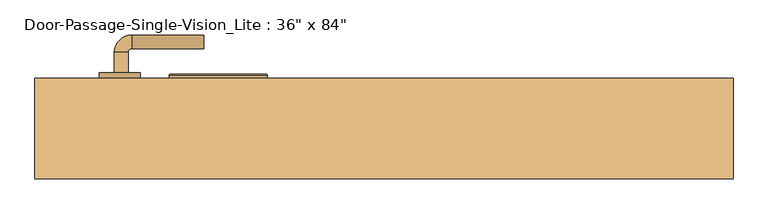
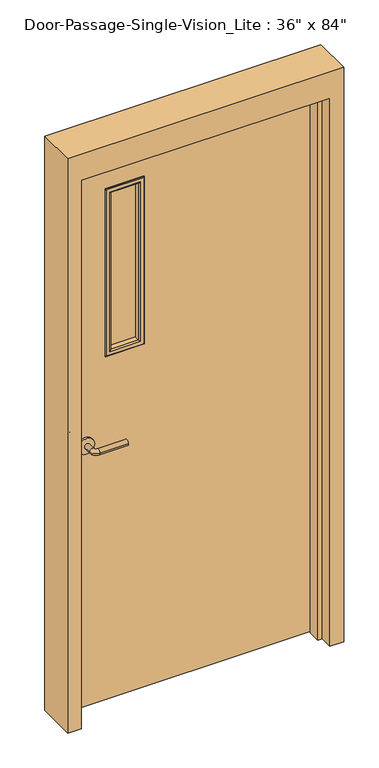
"""IFC4 building model written with IfcOpenShell, lengths in millimetres: door geometry."""

from ifc_helpers import new_model, si_unit, point, frame, frame_2d, origin, place, context, project, spatial, polyline, circle_curve, ellipse_curve, trimmed, segment, composite_curve, outline, extrude, faceted_brep, source, transform, mapped, element, save
from ifc_brep_helpers import plane_surface, cylinder_surface, revolved_surface, advanced_brep


def door_158479e4(model_context):
    return source(origin(), model_context, "Body", "SolidModel", [
        advanced_brep(
        [(-392.190625, -33.4, 1016.0), (-372.190625, -33.4, 1016.0), (-372.190625, -63.4, 1016.0), (-392.190625, -63.4, 1016.0), (-367.190625, -68.4, 1016.0), (-367.190625, -88.4, 1016.0), (-262.190625, -88.4, 1016.0), (-262.190625, -68.4, 1016.0)],
        [
            (0, 1, circle_curve(frame((-382.190625, -33.4, 1016.0), z_axis=(0.0, 1.0, 0.0), x_axis=(1.0, 0.0, 0.0)), 10.0)),
            (1, 0, circle_curve(frame((-382.190625, -33.4, 1016.0), z_axis=(0.0, 1.0, 0.0), x_axis=(1.0, 0.0, 0.0)), 10.0)),
            (1, 2),
            (2, 3, circle_curve(frame((-382.190625, -63.4, 1016.0), z_axis=(0.0, 1.0, 0.0), x_axis=(1.0, 0.0, 0.0)), 10.0)),
            (3, 0),
            (3, 2, circle_curve(frame((-382.190625, -63.4, 1016.0), z_axis=(0.0, 1.0, 0.0), x_axis=(1.0, 0.0, 0.0)), 10.0)),
            (4, 5, circle_curve(frame((-367.190625, -78.4, 1016.0), z_axis=(-1.0, 0.0, 0.0), x_axis=(0.0, 1.0, 0.0)), 10.0)),
            (5, 3, circle_curve(frame((-367.190625, -63.4, 1016.0), z_axis=(0.0, 0.0, -1.0), x_axis=(-1.0, 0.0, 0.0)), 25.0)),
            (2, 4, circle_curve(frame((-367.190625, -63.4, 1016.0), z_axis=(0.0, 0.0, 1.0), x_axis=(-1.0, 0.0, 0.0)), 5.0)),
            (5, 4, circle_curve(frame((-367.190625, -78.4, 1016.0), z_axis=(-1.0, 0.0, 0.0), x_axis=(0.0, 1.0, 0.0)), 10.0)),
            (6, 7, circle_curve(frame((-262.190625, -78.4, 1016.0), z_axis=(1.0, 0.0, 0.0), x_axis=(0.0, 1.0, 0.0)), 10.0)),
            (7, 6, circle_curve(frame((-262.190625, -78.4, 1016.0), z_axis=(1.0, 0.0, 0.0), x_axis=(0.0, 1.0, 0.0)), 10.0)),
            (4, 7),
            (6, 5),
        ],
        [
            plane_surface(frame((-382.190625, -33.4, 1016.0), z_axis=(0.0, 1.0, 0.0), x_axis=(0.0, 0.0, 1.0))),
            cylinder_surface(frame((-382.190625, -33.4, 1016.0), z_axis=(0.0, 1.0, 0.0), x_axis=(1.0, 0.0, 0.0)), 10.0),
            revolved_surface(trimmed(ellipse_curve(frame((-382.190625, -63.4, 1016.0), z_axis=(0.0, -1.0, 0.0), x_axis=(1.0, 0.0, 0.0)), 10.0, 10.0), [point((-392.190625, -63.4, 1016.0))], [point((-372.190625, -63.4, 1016.0))], True, "CARTESIAN"), (-367.190625, -63.4, 1016.0), (0.0, 0.0, -1.0)),
            revolved_surface(trimmed(ellipse_curve(frame((-382.190625, -63.4, 1016.0), z_axis=(0.0, -1.0, 0.0), x_axis=(1.0, 0.0, 0.0)), 10.0, 10.0), [point((-372.190625, -63.4, 1016.0))], [point((-392.190625, -63.4, 1016.0))], True, "CARTESIAN"), (-367.190625, -63.4, 1016.0), (0.0, 0.0, -1.0)),
            plane_surface(frame((-262.190625, -78.4, 1016.0), z_axis=(1.0, 0.0, 0.0), x_axis=(0.0, 0.0, 1.0))),
            cylinder_surface(frame((-367.190625, -78.4, 1016.0), z_axis=(-1.0, 0.0, 0.0), x_axis=(0.0, 1.0, 0.0)), 10.0),
        ],
        [
            (0, [[1, 2]]),
            (1, [[3, 4, 5, -2]]),
            (1, [[-5, 6, -3, -1]]),
            (2, [[7, 8, -4, 9]]),
            (3, [[10, -9, -6, -8]]),
            (4, [[11, 12]]),
            (5, [[13, -11, 14, -7]]),
            (5, [[-14, -12, -13, -10]]),
        ],
    ),
        extrude(outline(composite_curve([segment(trimmed(circle_curve(frame_2d((1016.0, -384.690625)), 30.0), [point((1016.0, -414.690625))], [point((1016.0, -354.690625))], False, "CARTESIAN"), True, "CONTINUOUS"), segment(trimmed(circle_curve(frame_2d((1016.0, -384.690625)), 30.0), [point((1016.0, -354.690625))], [point((1016.0, -414.690625))], False, "CARTESIAN"), True, "CONTINUOUS")], self_intersect=False)), frame((0.0, -33.4, 0.0), z_axis=(0.0, 1.0, 0.0), x_axis=(0.0, 0.0, 1.0)), (0.0, 0.0, 1.0), 8.0),
        advanced_brep(
        [(-392.190625, 27.05, 1016.0), (-372.190625, 27.05, 1016.0), (-392.190625, 57.05, 1016.0), (-372.190625, 57.05, 1016.0), (-367.190625, 62.05, 1016.0), (-367.190625, 82.05, 1016.0), (-262.190625, 82.05, 1016.0), (-262.190625, 62.05, 1016.0)],
        [
            (0, 1, circle_curve(frame((-382.190625, 27.05, 1016.0), z_axis=(0.0, -1.0, 0.0), x_axis=(1.0, 0.0, 0.0)), 10.0)),
            (1, 0, circle_curve(frame((-382.190625, 27.05, 1016.0), z_axis=(0.0, -1.0, 0.0), x_axis=(1.0, 0.0, 0.0)), 10.0)),
            (0, 2),
            (2, 3, circle_curve(frame((-382.190625, 57.05, 1016.0), z_axis=(0.0, -1.0, 0.0), x_axis=(1.0, 0.0, 0.0)), 10.0)),
            (3, 1),
            (3, 2, circle_curve(frame((-382.190625, 57.05, 1016.0), z_axis=(0.0, -1.0, 0.0), x_axis=(1.0, 0.0, 0.0)), 10.0)),
            (4, 3, circle_curve(frame((-367.190625, 57.05, 1016.0), z_axis=(0.0, 0.0, 1.0), x_axis=(-1.0, 0.0, 0.0)), 5.0)),
            (2, 5, circle_curve(frame((-367.190625, 57.05, 1016.0), z_axis=(0.0, 0.0, -1.0), x_axis=(-1.0, 0.0, 0.0)), 25.0)),
            (5, 4, circle_curve(frame((-367.190625, 72.05, 1016.0), z_axis=(-1.0, 0.0, 0.0), x_axis=(0.0, -1.0, 0.0)), 10.0)),
            (4, 5, circle_curve(frame((-367.190625, 72.05, 1016.0), z_axis=(-1.0, 0.0, 0.0), x_axis=(0.0, -1.0, 0.0)), 10.0)),
            (6, 7, circle_curve(frame((-262.190625, 72.05, 1016.0), z_axis=(1.0, 0.0, 0.0), x_axis=(0.0, -1.0, 0.0)), 10.0)),
            (7, 6, circle_curve(frame((-262.190625, 72.05, 1016.0), z_axis=(1.0, 0.0, 0.0), x_axis=(0.0, -1.0, 0.0)), 10.0)),
            (5, 6),
            (7, 4),
        ],
        [
            plane_surface(frame((-382.190625, 27.05, 1016.0), z_axis=(0.0, -1.0, 0.0), x_axis=(0.0, 0.0, 1.0))),
            cylinder_surface(frame((-382.190625, 27.05, 1016.0), z_axis=(0.0, -1.0, 0.0), x_axis=(1.0, 0.0, 0.0)), 10.0),
            revolved_surface(trimmed(ellipse_curve(frame((-382.190625, 57.05, 1016.0), z_axis=(0.0, -1.0, 0.0), x_axis=(1.0, 0.0, 0.0)), 10.0, 10.0), [point((-392.190625, 57.05, 1016.0))], [point((-372.190625, 57.05, 1016.0))], True, "CARTESIAN"), (-367.190625, 57.05, 1016.0), (0.0, 0.0, -1.0)),
            revolved_surface(trimmed(ellipse_curve(frame((-382.190625, 57.05, 1016.0), z_axis=(0.0, -1.0, 0.0), x_axis=(1.0, 0.0, 0.0)), 10.0, 10.0), [point((-372.190625, 57.05, 1016.0))], [point((-392.190625, 57.05, 1016.0))], True, "CARTESIAN"), (-367.190625, 57.05, 1016.0), (0.0, 0.0, -1.0)),
            plane_surface(frame((-262.190625, 72.05, 1016.0), z_axis=(1.0, 0.0, 0.0), x_axis=(0.0, 0.0, 1.0))),
            cylinder_surface(frame((-367.190625, 72.05, 1016.0), z_axis=(-1.0, 0.0, 0.0), x_axis=(0.0, -1.0, 0.0)), 10.0),
        ],
        [
            (0, [[1, 2]]),
            (1, [[-1, 3, 4, 5]]),
            (1, [[-2, -5, 6, -3]]),
            (2, [[7, -4, 8, 9]]),
            (3, [[-8, -6, -7, 10]]),
            (4, [[11, 12]]),
            (5, [[-9, 13, -12, 14]]),
            (5, [[-10, -14, -11, -13]]),
        ],
    ),
        extrude(outline(composite_curve([segment(trimmed(circle_curve(frame_2d((1016.0, -384.690625)), 30.0), [point((1016.0, -414.690625))], [point((1016.0, -354.690625))], False, "CARTESIAN"), True, "CONTINUOUS"), segment(trimmed(circle_curve(frame_2d((1016.0, -384.690625)), 30.0), [point((1016.0, -354.690625))], [point((1016.0, -414.690625))], False, "CARTESIAN"), True, "CONTINUOUS")], self_intersect=False)), frame((0.0, 19.05, 0.0), z_axis=(0.0, 1.0, 0.0), x_axis=(0.0, 0.0, 1.0)), (0.0, 0.0, 1.0), 8.0),
        faceted_brep([(457.2, -30.1625, 0.0), (457.2, 19.05, 0.0), (508.0, 19.05, 0.0), (508.0, -127.0, 0.0), (457.2, -127.0, 0.0), (457.2, -77.7875, 0.0), (441.325, -77.7875, 0.0), (441.325, -30.1625, 0.0), (457.2, -30.1625, 2133.6), (457.2, 19.05, 2133.6), (-457.2, 19.05, 2133.6), (-457.2, 19.05, 0.0), (-508.0, 19.05, 0.0), (-508.0, 19.05, 2235.2), (508.0, 19.05, 2235.2), (508.0, -127.0, 2235.2), (-508.0, -127.0, 2235.2), (-508.0, -127.0, 0.0), (-457.2, -127.0, 0.0), (-457.2, -127.0, 2133.6), (457.2, -127.0, 2133.6), (457.2, -77.7875, 2133.6), (-457.2, -77.7875, 2133.6), (-457.2, -77.7875, 0.0), (-441.325, -77.7875, 0.0), (-441.325, -77.7875, 2117.725), (441.325, -77.7875, 2117.725), (441.325, -30.1625, 2117.725), (-441.325, -30.1625, 2117.725), (-441.325, -30.1625, 0.0), (-457.2, -30.1625, 0.0), (-457.2, -30.1625, 2133.6)], [[[0, 1, 2, 3, 4, 5, 6, 7]], [[1, 0, 8, 9]], [[2, 1, 9, 10, 11, 12, 13, 14]], [[3, 2, 14, 15]], [[4, 3, 15, 16, 17, 18, 19, 20]], [[5, 4, 20, 21]], [[6, 5, 21, 22, 23, 24, 25, 26]], [[7, 6, 26, 27]], [[0, 7, 27, 28, 29, 30, 31, 8]], [[9, 8, 31, 10]], [[20, 19, 22, 21]], [[26, 25, 28, 27]], [[12, 11, 30, 29, 24, 23, 18, 17]], [[11, 10, 31, 30]], [[13, 12, 17, 16]], [[19, 18, 23, 22]], [[25, 24, 29, 28]], [[15, 14, 13, 16]]]),
        extrude(outline(polyline([(2133.6, -457.2), (0.0, -457.2), (0.0, 457.2), (2133.6, 457.2), (2133.6, -457.2)]), holes=[polyline([(1981.2, -304.8), (1981.2, -177.8), (1346.2, -177.8), (1346.2, -304.8), (1981.2, -304.8)])]), frame((0.0, -25.4, 0.0), z_axis=(0.0, 1.0, 0.0), x_axis=(0.0, 0.0, 1.0)), (0.0, 0.0, 1.0), 44.45),
        extrude(outline(polyline([(-177.8, -6.35), (-304.8, -6.35), (-304.8, 0.0), (-177.8, 0.0), (-177.8, -6.35)])), frame((0.0, 0.0, 1346.2), z_axis=(0.0, 0.0, 1.0), x_axis=(1.0, 0.0, 0.0)), (0.0, 0.0, 1.0), 635.0),
        advanced_brep(
        [(-304.8, -6.35, 1346.2), (-304.8, -25.4, 1346.2), (-304.8, -25.4, 1981.2), (-304.8, -6.35, 1981.2), (-292.8, -26.4, 1358.2), (-292.8, -6.35, 1358.2), (-292.8, -6.35, 1969.2), (-292.8, -26.4, 1969.2), (-297.8, -31.4, 1353.2), (-297.8, -31.4, 1974.2), (-312.8, -29.4, 1338.2), (-310.8, -31.4, 1340.2), (-310.8, -31.4, 1987.2), (-312.8, -29.4, 1989.2), (-312.8, -25.4, 1338.2), (-312.8, -25.4, 1989.2), (-177.8, -25.4, 1981.2), (-177.8, -6.35, 1981.2), (-189.8, -6.35, 1969.2), (-189.8, -26.4, 1969.2), (-184.8, -31.4, 1974.2), (-171.8, -31.4, 1987.2), (-169.8, -29.4, 1989.2), (-169.8, -25.4, 1989.2), (-177.8, -25.4, 1346.2), (-177.8, -6.35, 1346.2), (-189.8, -6.35, 1358.2), (-189.8, -26.4, 1358.2), (-184.8, -31.4, 1353.2), (-171.8, -31.4, 1340.2), (-169.8, -29.4, 1338.2), (-169.8, -25.4, 1338.2)],
        [
            (0, 1),
            (1, 2),
            (2, 3),
            (3, 0),
            (4, 5),
            (5, 6),
            (6, 7),
            (7, 4),
            (8, 4, ellipse_curve(frame((-297.8, -26.4, 1353.2), z_axis=(-0.7071067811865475, 0.0, 0.7071067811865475), x_axis=(-0.7071067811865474, 0.0, -0.7071067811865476)), 7.0710678, 5.0)),
            (7, 9, ellipse_curve(frame((-297.8, -26.4, 1974.2), z_axis=(-0.7071067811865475, 0.0, -0.7071067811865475), x_axis=(0.7071067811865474, 0.0, -0.7071067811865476)), 7.0710678, 5.0)),
            (9, 8),
            (10, 11, ellipse_curve(frame((-310.8, -29.4, 1340.2), z_axis=(-0.7071067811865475, 0.0, 0.7071067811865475), x_axis=(-0.7071067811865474, 0.0, -0.7071067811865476)), 2.8284271, 2.0)),
            (11, 12),
            (12, 13, ellipse_curve(frame((-310.8, -29.4, 1987.2), z_axis=(-0.7071067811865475, 0.0, -0.7071067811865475), x_axis=(0.7071067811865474, 0.0, -0.7071067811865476)), 2.8284271, 2.0)),
            (13, 10),
            (14, 10),
            (13, 15),
            (15, 14),
            (2, 16),
            (16, 17),
            (17, 3),
            (6, 18),
            (18, 19),
            (19, 7),
            (19, 20, ellipse_curve(frame((-184.8, -26.4, 1974.2), z_axis=(-0.7071067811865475, 0.0, 0.7071067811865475), x_axis=(-0.7071067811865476, 0.0, -0.7071067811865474)), 7.0710678, 5.0)),
            (20, 9),
            (12, 21),
            (21, 22, ellipse_curve(frame((-171.8, -29.4, 1987.2), z_axis=(-0.7071067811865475, 0.0, 0.7071067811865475), x_axis=(-0.7071067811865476, 0.0, -0.7071067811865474)), 2.8284271, 2.0)),
            (22, 13),
            (22, 23),
            (23, 15),
            (16, 24),
            (24, 25),
            (25, 17),
            (18, 26),
            (26, 27),
            (27, 19),
            (27, 28, ellipse_curve(frame((-184.8, -26.4, 1353.2), z_axis=(0.7071067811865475, 0.0, 0.7071067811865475), x_axis=(-0.7071067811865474, 0.0, 0.7071067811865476)), 7.0710678, 5.0)),
            (28, 20),
            (21, 29),
            (29, 30, ellipse_curve(frame((-171.8, -29.4, 1340.2), z_axis=(0.7071067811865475, 0.0, 0.7071067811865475), x_axis=(-0.7071067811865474, 0.0, 0.7071067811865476)), 2.8284271, 2.0)),
            (30, 22),
            (30, 31),
            (31, 23),
            (31, 14),
            (1, 24),
            (0, 25),
            (5, 26),
            (4, 27),
            (8, 28),
            (11, 29),
            (10, 30),
        ],
        [
            plane_surface(frame((-304.8, -25.4, 1346.2), z_axis=(-1.0, 0.0, 0.0), x_axis=(0.0, 0.0, 1.0))),
            plane_surface(frame((-292.8, -6.35, 1358.2), z_axis=(1.0, 0.0, 0.0), x_axis=(0.0, 0.0, 1.0))),
            cylinder_surface(frame((-297.8, -26.4, 1346.2), z_axis=(0.0, 0.0, -1.0), x_axis=(-1.0, 0.0, 0.0)), 5.0),
            cylinder_surface(frame((-310.8, -29.4, 1346.2), z_axis=(0.0, 0.0, -1.0), x_axis=(-1.0, 0.0, 0.0)), 2.0),
            plane_surface(frame((-312.8, -29.4, 1338.2), z_axis=(-1.0, 0.0, 0.0), x_axis=(0.0, 0.0, 1.0))),
            plane_surface(frame((-304.8, -25.4, 1981.2), z_axis=(0.0, 0.0, 1.0), x_axis=(1.0, 0.0, 0.0))),
            plane_surface(frame((-292.8, -6.35, 1969.2), z_axis=(0.0, 0.0, -1.0), x_axis=(1.0, 0.0, 0.0))),
            cylinder_surface(frame((-304.8, -26.4, 1974.2), z_axis=(-1.0, 0.0, 0.0), x_axis=(0.0, 0.0, 1.0)), 5.0),
            cylinder_surface(frame((-304.8, -29.4, 1987.2), z_axis=(-1.0, 0.0, 0.0), x_axis=(0.0, 0.0, 1.0)), 2.0),
            plane_surface(frame((-312.8, -29.4, 1989.2), z_axis=(0.0, 0.0, 1.0), x_axis=(1.0, 0.0, 0.0))),
            plane_surface(frame((-177.8, -25.4, 1981.2), z_axis=(1.0, 0.0, 0.0), x_axis=(0.0, 0.0, -1.0))),
            plane_surface(frame((-189.8, -6.35, 1969.2), z_axis=(-1.0, 0.0, 0.0), x_axis=(0.0, 0.0, -1.0))),
            cylinder_surface(frame((-184.8, -26.4, 1981.2), z_axis=(0.0, 0.0, 1.0), x_axis=(1.0, 0.0, 0.0)), 5.0),
            cylinder_surface(frame((-171.8, -29.4, 1981.2), z_axis=(0.0, 0.0, 1.0), x_axis=(1.0, 0.0, 0.0)), 2.0),
            plane_surface(frame((-169.8, -29.4, 1989.2), z_axis=(1.0, 0.0, 0.0), x_axis=(0.0, 0.0, -1.0))),
            plane_surface(frame((-169.8, -25.4, 1338.2), z_axis=(0.0, 1.0, 0.0), x_axis=(-1.0, 0.0, 0.0))),
            plane_surface(frame((-177.8, -25.4, 1346.2), z_axis=(0.0, 0.0, -1.0), x_axis=(-1.0, 0.0, 0.0))),
            plane_surface(frame((-177.8, -6.35, 1346.2), z_axis=(0.0, 1.0, 0.0), x_axis=(-1.0, 0.0, 0.0))),
            plane_surface(frame((-189.8, -6.35, 1358.2), z_axis=(0.0, 0.0, 1.0), x_axis=(-1.0, 0.0, 0.0))),
            cylinder_surface(frame((-177.8, -26.4, 1353.2), z_axis=(1.0, 0.0, 0.0), x_axis=(0.0, 0.0, -1.0)), 5.0),
            plane_surface(frame((-184.8, -31.4, 1353.2), z_axis=(0.0, -1.0, 0.0), x_axis=(-1.0, 0.0, 0.0))),
            cylinder_surface(frame((-177.8, -29.4, 1340.2), z_axis=(1.0, 0.0, 0.0), x_axis=(0.0, 0.0, -1.0)), 2.0),
            plane_surface(frame((-169.8, -29.4, 1338.2), z_axis=(0.0, 0.0, -1.0), x_axis=(-1.0, 0.0, 0.0))),
        ],
        [
            (0, [[1, 2, 3, 4]]),
            (1, [[5, 6, 7, 8]]),
            (2, [[9, -8, 10, 11]]),
            (3, [[12, 13, 14, 15]]),
            (4, [[16, -15, 17, 18]]),
            (5, [[-3, 19, 20, 21]]),
            (6, [[-7, 22, 23, 24]]),
            (7, [[-10, -24, 25, 26]]),
            (8, [[-14, 27, 28, 29]]),
            (9, [[-17, -29, 30, 31]]),
            (10, [[-20, 32, 33, 34]]),
            (11, [[-23, 35, 36, 37]]),
            (12, [[-25, -37, 38, 39]]),
            (13, [[-28, 40, 41, 42]]),
            (14, [[-30, -42, 43, 44]]),
            (15, [[-31, -44, 45, -18], [46, -32, -19, -2]]),
            (16, [[-33, -46, -1, 47]]),
            (17, [[-21, -34, -47, -4], [48, -35, -22, -6]]),
            (18, [[-36, -48, -5, 49]]),
            (19, [[-38, -49, -9, 50]]),
            (20, [[51, -40, -27, -13], [-26, -39, -50, -11]]),
            (21, [[-41, -51, -12, 52]]),
            (22, [[-43, -52, -16, -45]]),
        ],
    ),
        advanced_brep(
        [(-304.8, 0.0, 1981.2), (-304.8, 19.05, 1981.2), (-304.8, 19.05, 1346.2), (-304.8, 0.0, 1346.2), (-292.8, 20.05, 1969.2), (-292.8, 0.0, 1969.2), (-292.8, 0.0, 1358.2), (-292.8, 20.05, 1358.2), (-297.8, 25.05, 1974.2), (-297.8, 25.05, 1353.2), (-312.8, 23.05, 1989.2), (-310.8, 25.05, 1987.2), (-310.8, 25.05, 1340.2), (-312.8, 23.05, 1338.2), (-312.8, 19.05, 1989.2), (-312.8, 19.05, 1338.2), (-177.8, 19.05, 1346.2), (-177.8, 0.0, 1346.2), (-189.8, 0.0, 1358.2), (-189.8, 20.05, 1358.2), (-184.8, 25.05, 1353.2), (-171.8, 25.05, 1340.2), (-169.8, 23.05, 1338.2), (-169.8, 19.05, 1338.2), (-177.8, 19.05, 1981.2), (-177.8, 0.0, 1981.2), (-189.8, 0.0, 1969.2), (-189.8, 20.05, 1969.2), (-184.8, 25.05, 1974.2), (-171.8, 25.05, 1987.2), (-169.8, 23.05, 1989.2), (-169.8, 19.05, 1989.2)],
        [
            (0, 1),
            (1, 2),
            (2, 3),
            (3, 0),
            (4, 5),
            (5, 6),
            (6, 7),
            (7, 4),
            (8, 4, ellipse_curve(frame((-297.8, 20.05, 1974.2), z_axis=(-0.7071067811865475, 0.0, -0.7071067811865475), x_axis=(-0.7071067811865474, 0.0, 0.7071067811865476)), 7.0710678, 5.0)),
            (7, 9, ellipse_curve(frame((-297.8, 20.05, 1353.2), z_axis=(-0.7071067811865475, 0.0, 0.7071067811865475), x_axis=(0.7071067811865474, 0.0, 0.7071067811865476)), 7.0710678, 5.0)),
            (9, 8),
            (10, 11, ellipse_curve(frame((-310.8, 23.05, 1987.2), z_axis=(-0.7071067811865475, 0.0, -0.7071067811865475), x_axis=(-0.7071067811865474, 0.0, 0.7071067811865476)), 2.8284271, 2.0)),
            (11, 12),
            (12, 13, ellipse_curve(frame((-310.8, 23.05, 1340.2), z_axis=(-0.7071067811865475, 0.0, 0.7071067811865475), x_axis=(0.7071067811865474, 0.0, 0.7071067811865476)), 2.8284271, 2.0)),
            (13, 10),
            (14, 10),
            (13, 15),
            (15, 14),
            (2, 16),
            (16, 17),
            (17, 3),
            (6, 18),
            (18, 19),
            (19, 7),
            (19, 20, ellipse_curve(frame((-184.8, 20.05, 1353.2), z_axis=(-0.7071067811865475, 0.0, -0.7071067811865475), x_axis=(-0.7071067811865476, 0.0, 0.7071067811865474)), 7.0710678, 5.0)),
            (20, 9),
            (12, 21),
            (21, 22, ellipse_curve(frame((-171.8, 23.05, 1340.2), z_axis=(-0.7071067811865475, 0.0, -0.7071067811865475), x_axis=(-0.7071067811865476, 0.0, 0.7071067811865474)), 2.8284271, 2.0)),
            (22, 13),
            (22, 23),
            (23, 15),
            (16, 24),
            (24, 25),
            (25, 17),
            (18, 26),
            (26, 27),
            (27, 19),
            (27, 28, ellipse_curve(frame((-184.8, 20.05, 1974.2), z_axis=(0.7071067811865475, 0.0, -0.7071067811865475), x_axis=(-0.7071067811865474, 0.0, -0.7071067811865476)), 7.0710678, 5.0)),
            (28, 20),
            (21, 29),
            (29, 30, ellipse_curve(frame((-171.8, 23.05, 1987.2), z_axis=(0.7071067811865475, 0.0, -0.7071067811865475), x_axis=(-0.7071067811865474, 0.0, -0.7071067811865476)), 2.8284271, 2.0)),
            (30, 22),
            (30, 31),
            (31, 23),
            (31, 14),
            (1, 24),
            (0, 25),
            (5, 26),
            (4, 27),
            (8, 28),
            (11, 29),
            (10, 30),
        ],
        [
            plane_surface(frame((-304.8, 19.05, 1981.2), z_axis=(-1.0, 0.0, 0.0), x_axis=(0.0, 0.0, -1.0))),
            plane_surface(frame((-292.8, 0.0, 1969.2), z_axis=(1.0, 0.0, 0.0), x_axis=(0.0, 0.0, -1.0))),
            cylinder_surface(frame((-297.8, 20.05, 1981.2), z_axis=(0.0, 0.0, 1.0), x_axis=(-1.0, 0.0, 0.0)), 5.0),
            cylinder_surface(frame((-310.8, 23.05, 1981.2), z_axis=(0.0, 0.0, 1.0), x_axis=(-1.0, 0.0, 0.0)), 2.0),
            plane_surface(frame((-312.8, 23.05, 1989.2), z_axis=(-1.0, 0.0, 0.0), x_axis=(0.0, 0.0, -1.0))),
            plane_surface(frame((-304.8, 19.05, 1346.2), z_axis=(0.0, 0.0, -1.0), x_axis=(1.0, 0.0, 0.0))),
            plane_surface(frame((-292.8, 0.0, 1358.2), z_axis=(0.0, 0.0, 1.0), x_axis=(1.0, 0.0, 0.0))),
            cylinder_surface(frame((-304.8, 20.05, 1353.2), z_axis=(-1.0, 0.0, 0.0), x_axis=(0.0, 0.0, -1.0)), 5.0),
            cylinder_surface(frame((-304.8, 23.05, 1340.2), z_axis=(-1.0, 0.0, 0.0), x_axis=(0.0, 0.0, -1.0)), 2.0),
            plane_surface(frame((-312.8, 23.05, 1338.2), z_axis=(0.0, 0.0, -1.0), x_axis=(1.0, 0.0, 0.0))),
            plane_surface(frame((-177.8, 19.05, 1346.2), z_axis=(1.0, 0.0, 0.0), x_axis=(0.0, 0.0, 1.0))),
            plane_surface(frame((-189.8, 0.0, 1358.2), z_axis=(-1.0, 0.0, 0.0), x_axis=(0.0, 0.0, 1.0))),
            cylinder_surface(frame((-184.8, 20.05, 1346.2), z_axis=(0.0, 0.0, -1.0), x_axis=(1.0, 0.0, 0.0)), 5.0),
            cylinder_surface(frame((-171.8, 23.05, 1346.2), z_axis=(0.0, 0.0, -1.0), x_axis=(1.0, 0.0, 0.0)), 2.0),
            plane_surface(frame((-169.8, 23.05, 1338.2), z_axis=(1.0, 0.0, 0.0), x_axis=(0.0, 0.0, 1.0))),
            plane_surface(frame((-169.8, 19.05, 1989.2), z_axis=(0.0, -1.0, 0.0), x_axis=(-1.0, 0.0, 0.0))),
            plane_surface(frame((-177.8, 19.05, 1981.2), z_axis=(0.0, 0.0, 1.0), x_axis=(-1.0, 0.0, 0.0))),
            plane_surface(frame((-177.8, 0.0, 1981.2), z_axis=(0.0, -1.0, 0.0), x_axis=(-1.0, 0.0, 0.0))),
            plane_surface(frame((-189.8, 0.0, 1969.2), z_axis=(0.0, 0.0, -1.0), x_axis=(-1.0, 0.0, 0.0))),
            cylinder_surface(frame((-177.8, 20.05, 1974.2), z_axis=(1.0, 0.0, 0.0), x_axis=(0.0, 0.0, 1.0)), 5.0),
            plane_surface(frame((-184.8, 25.05, 1974.2), z_axis=(0.0, 1.0, 0.0), x_axis=(-1.0, 0.0, 0.0))),
            cylinder_surface(frame((-177.8, 23.05, 1987.2), z_axis=(1.0, 0.0, 0.0), x_axis=(0.0, 0.0, 1.0)), 2.0),
            plane_surface(frame((-169.8, 23.05, 1989.2), z_axis=(0.0, 0.0, 1.0), x_axis=(-1.0, 0.0, 0.0))),
        ],
        [
            (0, [[1, 2, 3, 4]]),
            (1, [[5, 6, 7, 8]]),
            (2, [[9, -8, 10, 11]]),
            (3, [[12, 13, 14, 15]]),
            (4, [[16, -15, 17, 18]]),
            (5, [[-3, 19, 20, 21]]),
            (6, [[-7, 22, 23, 24]]),
            (7, [[-10, -24, 25, 26]]),
            (8, [[-14, 27, 28, 29]]),
            (9, [[-17, -29, 30, 31]]),
            (10, [[-20, 32, 33, 34]]),
            (11, [[-23, 35, 36, 37]]),
            (12, [[-25, -37, 38, 39]]),
            (13, [[-28, 40, 41, 42]]),
            (14, [[-30, -42, 43, 44]]),
            (15, [[-31, -44, 45, -18], [46, -32, -19, -2]]),
            (16, [[-33, -46, -1, 47]]),
            (17, [[-21, -34, -47, -4], [48, -35, -22, -6]]),
            (18, [[-36, -48, -5, 49]]),
            (19, [[-38, -49, -9, 50]]),
            (20, [[51, -40, -27, -13], [-26, -39, -50, -11]]),
            (21, [[-41, -51, -12, 52]]),
            (22, [[-43, -52, -16, -45]]),
        ],
    ),
    ])


if __name__ == "__main__":
    model = new_model("IFC4")
    model_context = context("Model", 3, world=origin())
    ifc_project = project(units=[si_unit("LENGTHUNIT", "METRE", prefix="MILLI")], contexts=[model_context])
    site = spatial("IfcSite", under=ifc_project)
    building = spatial("IfcBuilding", under=site)
    placement = place(None, origin())
    door_shape = door_158479e4(model_context)
    element("IfcDoor", 1, ObjectType="Door-Passage-Single-Vision_Lite : 36\" x 84\"", at=placement, inside=building, context=model_context, shape_type="MappedRepresentation", body=[
        mapped(door_shape, transform((0.0, 0.0, 0.0), x_axis=(1.0, 0.0, 0.0), y_axis=(0.0, 1.0, 0.0), z_axis=(0.0, 0.0, 1.0))),
    ])
    save(model, "model.ifc")
